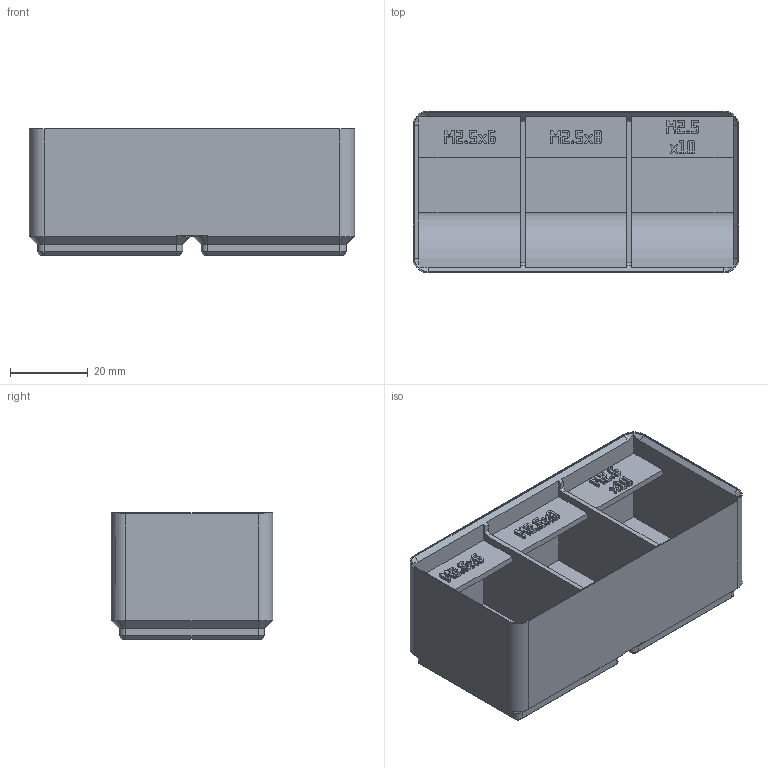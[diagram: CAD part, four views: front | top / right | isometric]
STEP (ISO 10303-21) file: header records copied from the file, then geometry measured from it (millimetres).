
FILE_DESCRIPTION(('Open CASCADE Model'),'2;1');
FILE_NAME('Open CASCADE Shape Model','2026-11-16T13:39:36',('Author'),( 'Open CASCADE'),'Open CASCADE STEP processor 8.0','build123d', 'Unknown');
FILE_SCHEMA(('AUTOMOTIVE_DESIGN { 1 0 10303 214 1 1 1 1 }'));
Products named in the file (1): SOLID
Bounding box: 83.5 x 41.5 x 32.4 mm (x, y, z)
Volume: 46152.7 mm3; surface area: 23551.1 mm2
Topology: 1 solids, 1 shells, 1958 faces, 5734 edges, 3804 vertices
Faces by surface type: plane 1915, cylinder 23, cone 20
Entity records: 134188 total; most frequent: CARTESIAN_POINT 27076, DIRECTION 17188, LINE 13115, VECTOR 13115, ORIENTED_EDGE 11468, PCURVE 11468, DEFINITIONAL_REPRESENTATION 11468, EDGE_CURVE 5734
